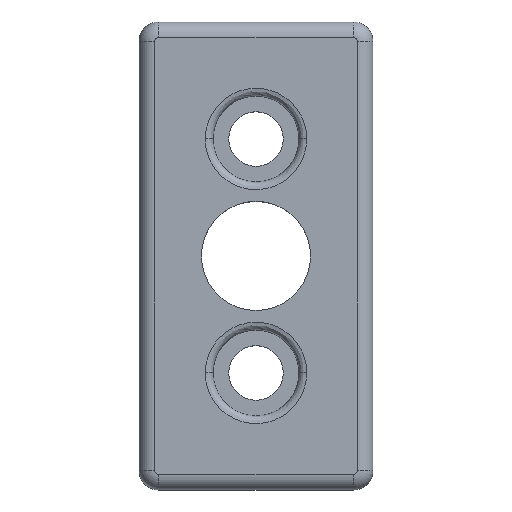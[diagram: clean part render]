
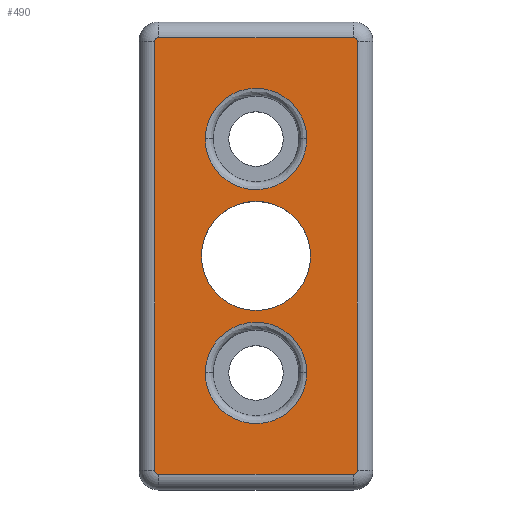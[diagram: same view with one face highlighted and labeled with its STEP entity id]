
A CAD part, top view. The second image highlights one B-rep face of the part: STEP entity #490.
In plain terms, the highlighted planar face has unit normal (0, 0, 1).
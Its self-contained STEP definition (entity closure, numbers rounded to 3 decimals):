
#12 =( BOUNDED_CURVE ( )  B_SPLINE_CURVE ( 3, ( #2235, #1381, #3675, #2501 ),
 .UNSPECIFIED., .F., .T. ) 
 B_SPLINE_CURVE_WITH_KNOTS ( ( 4, 4 ),
 ( 0., 0.5 ),
 .UNSPECIFIED. ) 
 CURVE ( )  GEOMETRIC_REPRESENTATION_ITEM ( )  RATIONAL_B_SPLINE_CURVE ( ( 1., 0.333, 0.333, 1. ) ) 
 REPRESENTATION_ITEM ( '' )  );
#58 = VERTEX_POINT ( 'NONE', #3669 ) ;
#77 = LINE ( 'NONE', #983, #966 ) ;
#107 = CARTESIAN_POINT ( 'NONE',  ( 6.5, -15., 12. ) ) ;
#127 = CIRCLE ( 'NONE', #729, 0.5 ) ;
#184 = ORIENTED_EDGE ( 'NONE', *, *, #2320, .T. ) ;
#195 = VERTEX_POINT ( 'NONE', #3236 ) ;
#340 = CARTESIAN_POINT ( 'NONE',  ( 13., 27.5, 12. ) ) ;
#443 = DIRECTION ( 'NONE',  ( -1., 0., 0. ) ) ;
#490 = ADVANCED_FACE ( 'NONE', ( #969, #2988, #685, #3526 ), #950, .F. ) ;
#519 = CARTESIAN_POINT ( 'NONE',  ( 6.5, 2., 12. ) ) ;
#536 = DIRECTION ( 'NONE',  ( -1., 0., 0. ) ) ;
#647 = LINE ( 'NONE', #1802, #667 ) ;
#667 = VECTOR ( 'NONE', #443, 1000. ) ;
#685 = FACE_BOUND ( 'NONE', #2627, .T. ) ;
#687 = VERTEX_POINT ( 'NONE', #716 ) ;
#692 = CARTESIAN_POINT ( 'NONE',  ( -6.5, -2., 12. ) ) ;
#716 = CARTESIAN_POINT ( 'NONE',  ( 12.5, -28., 12. ) ) ;
#729 = AXIS2_PLACEMENT_3D ( 'NONE', #3659, #1048, #536 ) ;
#738 = CARTESIAN_POINT ( 'NONE',  ( -6.5, 2., 12. ) ) ;
#750 = CARTESIAN_POINT ( 'NONE',  ( 12.5, -27.5, 12. ) ) ;
#789 = EDGE_CURVE ( 'NONE', #2198, #2111, #1781, .T. ) ;
#939 = EDGE_CURVE ( 'NONE', #3148, #1247, #1072, .T. ) ;
#950 = PLANE ( 'NONE',  #1968 ) ;
#966 = VECTOR ( 'NONE', #1795, 1000. ) ;
#969 = FACE_BOUND ( 'NONE', #1023, .T. ) ;
#976 = AXIS2_PLACEMENT_3D ( 'NONE', #750, #1618, #2476 ) ;
#983 = CARTESIAN_POINT ( 'NONE',  ( -13., -27.5, 12. ) ) ;
#984 = DIRECTION ( 'NONE',  ( 0., 0., -1. ) ) ;
#1023 = EDGE_LOOP ( 'NONE', ( #184, #2760 ) ) ;
#1039 = CARTESIAN_POINT ( 'NONE',  ( 0., 0., 12. ) ) ;
#1043 = CIRCLE ( 'NONE', #3270, 7. ) ;
#1048 = DIRECTION ( 'NONE',  ( 0., 0., -1. ) ) ;
#1056 = ORIENTED_EDGE ( 'NONE', *, *, #2271, .F. ) ;
#1060 = DIRECTION ( 'NONE',  ( -1., 0., 0. ) ) ;
#1072 =( BOUNDED_CURVE ( )  B_SPLINE_CURVE ( 3, ( #107, #2128, #692, #1558 ),
 .UNSPECIFIED., .F., .T. ) 
 B_SPLINE_CURVE_WITH_KNOTS ( ( 4, 4 ),
 ( 0.5, 1. ),
 .UNSPECIFIED. ) 
 CURVE ( )  GEOMETRIC_REPRESENTATION_ITEM ( )  RATIONAL_B_SPLINE_CURVE ( ( 1., 0.333, 0.333, 1. ) ) 
 REPRESENTATION_ITEM ( '' )  );
#1247 = VERTEX_POINT ( 'NONE', #1497 ) ;
#1368 = ORIENTED_EDGE ( 'NONE', *, *, #939, .F. ) ;
#1381 = CARTESIAN_POINT ( 'NONE',  ( -6.5, -28., 12. ) ) ;
#1401 = CARTESIAN_POINT ( 'NONE',  ( 6.5, -15., 12. ) ) ;
#1403 = ORIENTED_EDGE ( 'NONE', *, *, #2427, .F. ) ;
#1419 = VERTEX_POINT ( 'NONE', #3347 ) ;
#1497 = CARTESIAN_POINT ( 'NONE',  ( -6.5, -15., 12. ) ) ;
#1502 = DIRECTION ( 'NONE',  ( 0., 0., -1. ) ) ;
#1521 = VECTOR ( 'NONE', #2285, 1000. ) ;
#1558 = CARTESIAN_POINT ( 'NONE',  ( -6.5, -15., 12. ) ) ;
#1598 = DIRECTION ( 'NONE',  ( 0., 0., -1. ) ) ;
#1618 = DIRECTION ( 'NONE',  ( 0., 0., -1. ) ) ;
#1632 = CIRCLE ( 'NONE', #1697, 0.5 ) ;
#1682 = CARTESIAN_POINT ( 'NONE',  ( 6.5, 15., 12. ) ) ;
#1697 = AXIS2_PLACEMENT_3D ( 'NONE', #1814, #984, #2133 ) ;
#1736 = CARTESIAN_POINT ( 'NONE',  ( 6.5, 15., 12. ) ) ;
#1752 = DIRECTION ( 'NONE',  ( -1., 0., 0. ) ) ;
#1776 = CARTESIAN_POINT ( 'NONE',  ( 12.5, 28., 12. ) ) ;
#1781 = CIRCLE ( 'NONE', #2859, 0.5 ) ;
#1795 = DIRECTION ( 'NONE',  ( 0., 1., 0. ) ) ;
#1802 = CARTESIAN_POINT ( 'NONE',  ( 12.5, -28., 12. ) ) ;
#1814 = CARTESIAN_POINT ( 'NONE',  ( -12.5, -27.5, 12. ) ) ;
#1819 = DIRECTION ( 'NONE',  ( 0., 0., -1. ) ) ;
#1821 = CIRCLE ( 'NONE', #976, 0.5 ) ;
#1829 = CARTESIAN_POINT ( 'NONE',  ( 0., 0., 12. ) ) ;
#1836 = LINE ( 'NONE', #2439, #2658 ) ;
#1868 = CARTESIAN_POINT ( 'NONE',  ( -6.5, 15., 12. ) ) ;
#1921 = CARTESIAN_POINT ( 'NONE',  ( 6.5, 28., 12. ) ) ;
#1968 = AXIS2_PLACEMENT_3D ( 'NONE', #2913, #1819, #2117 ) ;
#2096 = ORIENTED_EDGE ( 'NONE', *, *, #2224, .F. ) ;
#2111 = VERTEX_POINT ( 'NONE', #340 ) ;
#2117 = DIRECTION ( 'NONE',  ( -1., 0., 0. ) ) ;
#2128 = CARTESIAN_POINT ( 'NONE',  ( 6.5, -2., 12. ) ) ;
#2133 = DIRECTION ( 'NONE',  ( -1., 0., 0. ) ) ;
#2150 = CARTESIAN_POINT ( 'NONE',  ( 6.5, 15., 12. ) ) ;
#2198 = VERTEX_POINT ( 'NONE', #1776 ) ;
#2224 = EDGE_CURVE ( 'NONE', #2968, #2243, #77, .T. ) ;
#2227 =( BOUNDED_CURVE ( )  B_SPLINE_CURVE ( 3, ( #3326, #738, #519, #1682 ),
 .UNSPECIFIED., .F., .F. ) 
 B_SPLINE_CURVE_WITH_KNOTS ( ( 4, 4 ),
 ( 0., 0.5 ),
 .UNSPECIFIED. ) 
 CURVE ( )  GEOMETRIC_REPRESENTATION_ITEM ( )  RATIONAL_B_SPLINE_CURVE ( ( 1., 0.333, 0.333, 1. ) ) 
 REPRESENTATION_ITEM ( '' )  );
#2235 = CARTESIAN_POINT ( 'NONE',  ( -6.5, -15., 12. ) ) ;
#2243 = VERTEX_POINT ( 'NONE', #2693 ) ;
#2271 = EDGE_CURVE ( 'NONE', #2374, #2769, #2470, .T. ) ;
#2285 = DIRECTION ( 'NONE',  ( 1., 0., 0. ) ) ;
#2320 = EDGE_CURVE ( 'NONE', #195, #3651, #2472, .T. ) ;
#2360 = DIRECTION ( 'NONE',  ( 0., 0., -1. ) ) ;
#2374 = VERTEX_POINT ( 'NONE', #1736 ) ;
#2375 = AXIS2_PLACEMENT_3D ( 'NONE', #1039, #1598, #1060 ) ;
#2411 = ORIENTED_EDGE ( 'NONE', *, *, #3065, .F. ) ;
#2427 = EDGE_CURVE ( 'NONE', #1419, #2198, #3111, .T. ) ;
#2428 = EDGE_LOOP ( 'NONE', ( #1403, #3654, #2096, #3139, #3595, #2437, #3712, #2908 ) ) ;
#2437 = ORIENTED_EDGE ( 'NONE', *, *, #3507, .F. ) ;
#2439 = CARTESIAN_POINT ( 'NONE',  ( 13., 27.5, 12. ) ) ;
#2470 =( BOUNDED_CURVE ( )  B_SPLINE_CURVE ( 3, ( #2150, #1921, #2494, #1868 ),
 .UNSPECIFIED., .F., .F. ) 
 B_SPLINE_CURVE_WITH_KNOTS ( ( 4, 4 ),
 ( 0.5, 1. ),
 .UNSPECIFIED. ) 
 CURVE ( )  GEOMETRIC_REPRESENTATION_ITEM ( )  RATIONAL_B_SPLINE_CURVE ( ( 1., 0.333, 0.333, 1. ) ) 
 REPRESENTATION_ITEM ( '' )  );
#2472 = CIRCLE ( 'NONE', #2375, 7. ) ;
#2476 = DIRECTION ( 'NONE',  ( -1., 0., 0. ) ) ;
#2494 = CARTESIAN_POINT ( 'NONE',  ( -6.5, 28., 12. ) ) ;
#2501 = CARTESIAN_POINT ( 'NONE',  ( 6.5, -15., 12. ) ) ;
#2547 = EDGE_CURVE ( 'NONE', #3651, #195, #1043, .T. ) ;
#2605 = CARTESIAN_POINT ( 'NONE',  ( 7., 0., 12. ) ) ;
#2627 = EDGE_LOOP ( 'NONE', ( #2411, #1056 ) ) ;
#2658 = VECTOR ( 'NONE', #3225, 1000. ) ;
#2693 = CARTESIAN_POINT ( 'NONE',  ( -13., 27.5, 12. ) ) ;
#2760 = ORIENTED_EDGE ( 'NONE', *, *, #2547, .T. ) ;
#2769 = VERTEX_POINT ( 'NONE', #3682 ) ;
#2859 = AXIS2_PLACEMENT_3D ( 'NONE', #2860, #2360, #1752 ) ;
#2860 = CARTESIAN_POINT ( 'NONE',  ( 12.5, 27.5, 12. ) ) ;
#2908 = ORIENTED_EDGE ( 'NONE', *, *, #789, .F. ) ;
#2913 = CARTESIAN_POINT ( 'NONE',  ( -12.5, 27.5, 12. ) ) ;
#2968 = VERTEX_POINT ( 'NONE', #2989 ) ;
#2978 = DIRECTION ( 'NONE',  ( -1., 0., 0. ) ) ;
#2980 = EDGE_CURVE ( 'NONE', #687, #58, #647, .T. ) ;
#2988 = FACE_OUTER_BOUND ( 'NONE', #2428, .T. ) ;
#2989 = CARTESIAN_POINT ( 'NONE',  ( -13., -27.5, 12. ) ) ;
#3014 = EDGE_CURVE ( 'NONE', #2243, #1419, #127, .T. ) ;
#3049 = VERTEX_POINT ( 'NONE', #3063 ) ;
#3063 = CARTESIAN_POINT ( 'NONE',  ( 13., -27.5, 12. ) ) ;
#3065 = EDGE_CURVE ( 'NONE', #2769, #2374, #2227, .T. ) ;
#3111 = LINE ( 'NONE', #3185, #1521 ) ;
#3116 = EDGE_CURVE ( 'NONE', #1247, #3148, #12, .T. ) ;
#3139 = ORIENTED_EDGE ( 'NONE', *, *, #3372, .F. ) ;
#3148 = VERTEX_POINT ( 'NONE', #1401 ) ;
#3172 = ORIENTED_EDGE ( 'NONE', *, *, #3116, .F. ) ;
#3185 = CARTESIAN_POINT ( 'NONE',  ( -12.5, 28., 12. ) ) ;
#3225 = DIRECTION ( 'NONE',  ( 0., -1., 0. ) ) ;
#3236 = CARTESIAN_POINT ( 'NONE',  ( -7., 0., 12. ) ) ;
#3270 = AXIS2_PLACEMENT_3D ( 'NONE', #1829, #1502, #2978 ) ;
#3297 = EDGE_CURVE ( 'NONE', #2111, #3049, #1836, .T. ) ;
#3326 = CARTESIAN_POINT ( 'NONE',  ( -6.5, 15., 12. ) ) ;
#3347 = CARTESIAN_POINT ( 'NONE',  ( -12.5, 28., 12. ) ) ;
#3372 = EDGE_CURVE ( 'NONE', #58, #2968, #1632, .T. ) ;
#3507 = EDGE_CURVE ( 'NONE', #3049, #687, #1821, .T. ) ;
#3526 = FACE_BOUND ( 'NONE', #3702, .T. ) ;
#3595 = ORIENTED_EDGE ( 'NONE', *, *, #2980, .F. ) ;
#3651 = VERTEX_POINT ( 'NONE', #2605 ) ;
#3654 = ORIENTED_EDGE ( 'NONE', *, *, #3014, .F. ) ;
#3659 = CARTESIAN_POINT ( 'NONE',  ( -12.5, 27.5, 12. ) ) ;
#3669 = CARTESIAN_POINT ( 'NONE',  ( -12.5, -28., 12. ) ) ;
#3675 = CARTESIAN_POINT ( 'NONE',  ( 6.5, -28., 12. ) ) ;
#3682 = CARTESIAN_POINT ( 'NONE',  ( -6.5, 15., 12. ) ) ;
#3702 = EDGE_LOOP ( 'NONE', ( #3172, #1368 ) ) ;
#3712 = ORIENTED_EDGE ( 'NONE', *, *, #3297, .F. ) ;
